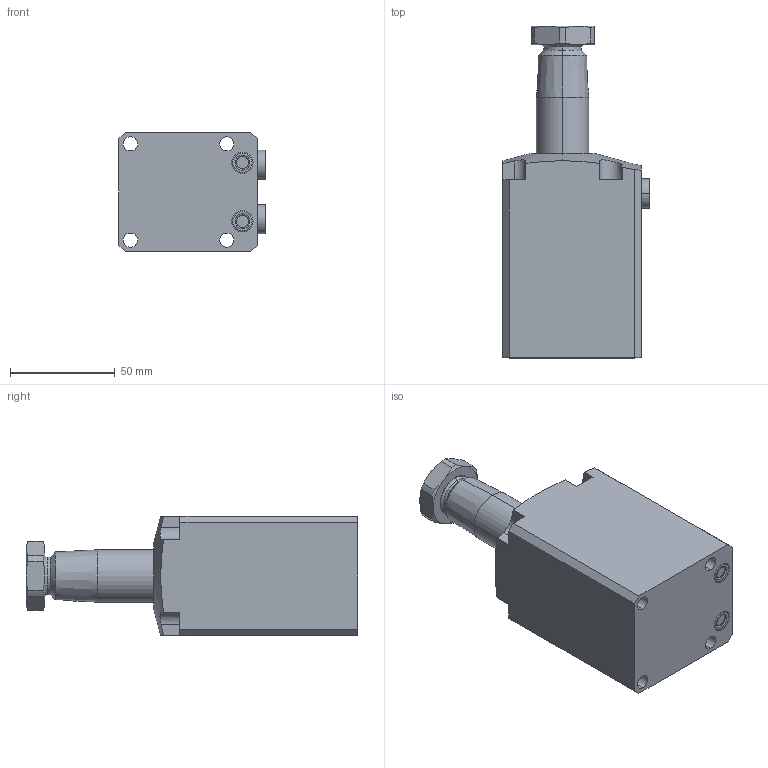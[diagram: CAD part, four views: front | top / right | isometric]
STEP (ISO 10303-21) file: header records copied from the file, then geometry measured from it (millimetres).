
FILE_DESCRIPTION(/* description */ (''),/* implementation_level */ '2;1');
FILE_NAME(/* name */ 'BRC06-R.stp',/* time_stamp */ '2025-01-05T09:26:44+08:00',/* author */ (''),/* organization */ (''),/* preprocessor_version */ 'ST-DEVELOPER v16.7',/* originating_system */ 'SIEMENS PLM Software NX 12.0',/* authorisation */ '');
FILE_SCHEMA (('AUTOMOTIVE_DESIGN { 1 0 10303 214 3 1 1 1 }'));
Length unit declared in the file: millimetre
Products named in the file (5): BRC06-R-0485; BRC06-R-0386; BRC06-R-0287; BRC06-R-0188; BRC06-R_stp
Assembly tree (5 placements, depth 2):
  BRC06-R_stp
    BRC06-R-0188
    BRC06-R-0287
    BRC06-R-0386  x2
    BRC06-R-0485
Bounding box: 69.8 x 158.5 x 57 mm (x, y, z)
Volume: 359483 mm3; surface area: 49416.6 mm2
Topology: 7 solids, 7 shells, 176 faces, 401 edges, 248 vertices
Faces by surface type: plane 68, cylinder 57, cone 34, torus 16, sphere 1
Full cylindrical faces by diameter (mm): 8.5 x2
Entity records: 4660 total; most frequent: CARTESIAN_POINT 957, DIRECTION 778, ORIENTED_EDGE 712, EDGE_CURVE 356, AXIS2_PLACEMENT_3D 313, VERTEX_POINT 222, EDGE_LOOP 180, ADVANCED_FACE 156
